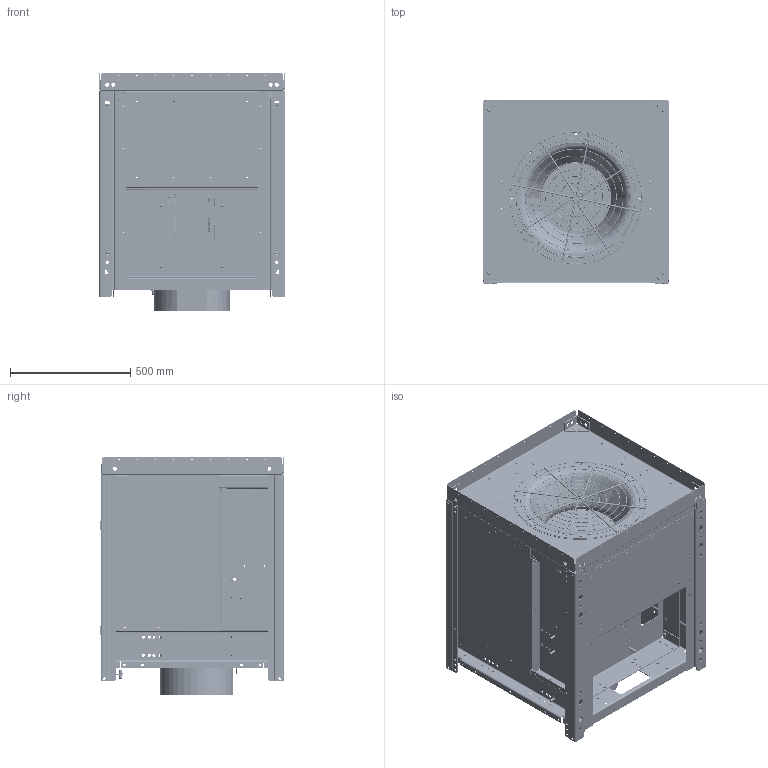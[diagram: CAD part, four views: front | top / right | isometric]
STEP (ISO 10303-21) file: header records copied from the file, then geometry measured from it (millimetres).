
FILE_DESCRIPTION((''),'2;1');
FILE_NAME('058683_ASM','2014-11-14T',('dbubemyre'),(''),'PRO/ENGINEER BY PARAMETRIC TECHNOLOGY CORPORATION, 2014200','PRO/ENGINEER BY PARAMETRIC TECHNOLOGY CORPORATION, 2014200','');
FILE_SCHEMA(('CONFIG_CONTROL_DESIGN'));
Length unit declared in the file: inch
Products named in the file (78): 0575820004; 0575830004; 0575740008; 0575880005; 057834_MIR; 0575820009_MIR; 057834; 0575990004_MIR_ASM; 0575820009; 0575990004_ASM; NEMA_256T_TEFC; 0575690003; 0575680006; 0576650022; 0579720001; 0575650003; 0579720001_B; 0575760003; 0575880013; 057581; 0575660007; 0575700009; 0575790010; 0575890009_ASM; NUT-INSERT_RIVET_10-32THD; FITTING-TUBE-TO-THREAD_25; 05405801; 057632; 0544950007; 057631; 058559; BULKHEAD_TUBEFITTING_25; 0575730001; INLETGUARD_182; RING_AB; RING_AD; ROD_182; 0576560004_ASM; 057699_1_182; 057699_3_182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
Assembly tree (212 placements, depth 3):
  058683_ASM
    0575990004_MIR_ASM
      0575820004
      0575830004
      0575740008
      0575880005  x2
      057834_MIR
      0575820009_MIR
      057834
    0575990004_ASM
      0575820009
      0575830004
      0575820004
      0575740008
      0575880005  x2
      057834_MIR
      057834
    NEMA_256T_TEFC
    0575690003
    0575680006
    0576650022
    0579720001
    0575650003
    0579720001_B
    0575760003
    0575880013  x3
    057581  x4
    0575890009_ASM
      0575660007
      0575700009
      0575790010
    NUT-INSERT_RIVET_10-32THD  x2
    FITTING-TUBE-TO-THREAD_25  x2
    05405801
    057632
    0544950007
    057631  x4
    058559
    BULKHEAD_TUBEFITTING_25  x2
    0575730001
    0576560004_ASM
      INLETGUARD_182
      RING_AB
      RING_AD
      ROD_182  x4
    057699-182_ASM
      057699_1_182
      057699_3_182  x2
      057699_2_182
      057699_4S  x32
      057699_4T  x2
      057699_4U  x2
      057699_4V  x2
      057699_4R  x36
      057699_1M_182
      057699_5_182  x2
      057699_2M_182
      057699_4X  x2
      057699_4W  x2
      057699_6  x2
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Bounding box: 772.81 x 762.76 x 993.9 mm (x, y, z)
Volume: 122313788.1 mm3; surface area: 16407214.6 mm2
Topology: 205 solids, 205 shells, 5187 faces, 12691 edges, 7984 vertices
Faces by surface type: cylinder 2738, plane 2021, torus 212, cone 130, bspline 86
Entity records: 111062 total; most frequent: CARTESIAN_POINT 26391, DIRECTION 18537, ORIENTED_EDGE 16122, EDGE_CURVE 8061, AXIS2_PLACEMENT_3D 7159, VERTEX_POINT 5061, EDGE_LOOP 4564, VECTOR 4219
